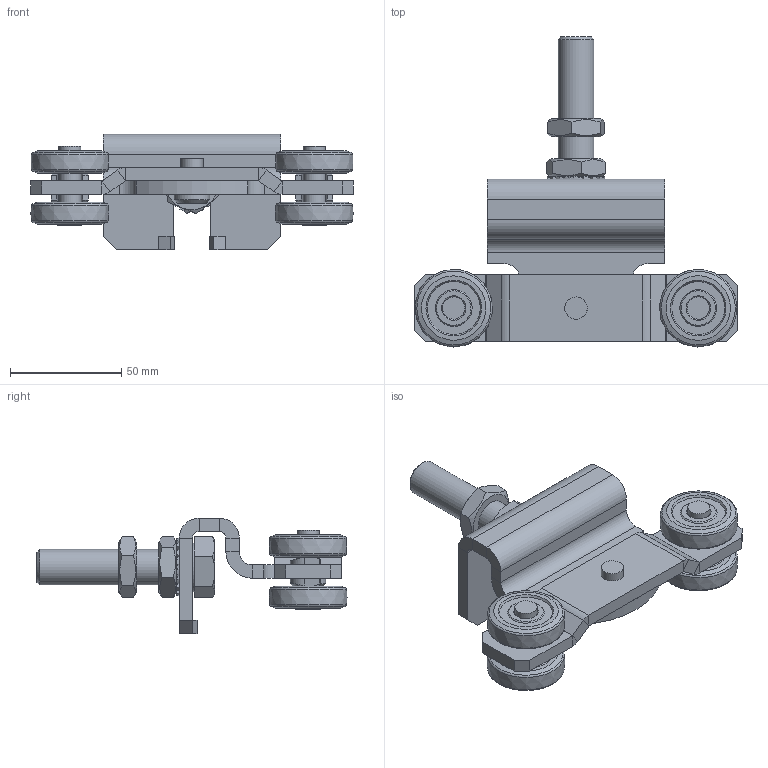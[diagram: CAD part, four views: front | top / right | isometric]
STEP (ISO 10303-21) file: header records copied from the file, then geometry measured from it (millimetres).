
FILE_DESCRIPTION(/* description */ ('Rollenhalter zu Doppelrolle Nr.2'),/* implementation_level */ '2;1');
FILE_NAME(/* name */ 'Q:\sge-ma\Produktmanagement-STB\STB\Workspace\TraceParts\Doppelrolle mit Kunststoffaußenring\010336423.stp',/* time_stamp */ '2018-02-21T13:42:08+01:00',/* author */ ('avschreier'),/* organization */ (''),/* preprocessor_version */ 'ST-DEVELOPER v16.1',/* originating_system */ 'Autodesk Inventor 2016',/* authorisation */ '');
FILE_SCHEMA (('CONFIG_CONTROL_DESIGN'));
Length unit declared in the file: millimetre
Products named in the file (10): 337000121; 337000225; 000303232; 336290020; 000304013; 000302242; DIN_6798-A_17_en; DIN_EN_ISO_4017-M16x70_en; DIN_EN_ISO_4035-M16_en; 010336423
Assembly tree (17 placements, depth 2):
  010336423
    337000121
    337000225
    000303232  x4
    336290020  x4
    000304013  x2
    000302242
    DIN_6798-A_17_en
    DIN_EN_ISO_4017-M16x70_en
    DIN_EN_ISO_4035-M16_en  x2
Bounding box: 145 x 139.5 x 52 mm (x, y, z)
Volume: 140166.1 mm3; surface area: 57681 mm2
Topology: 17 solids, 17 shells, 520 faces, 1263 edges, 798 vertices
Faces by surface type: plane 291, cylinder 132, cone 51, bspline 36, torus 10
Full cylindrical faces by diameter (mm): 10 x8, 10.1 x1, 12 x2, 13.835 x2, 14.917 x1, 16 x2, 17 x1, 22 x1
Entity records: 10978 total; most frequent: CARTESIAN_POINT 2860, DIRECTION 1720, ORIENTED_EDGE 1578, EDGE_CURVE 789, AXIS2_PLACEMENT_3D 622, VERTEX_POINT 514, LINE 476, VECTOR 476
